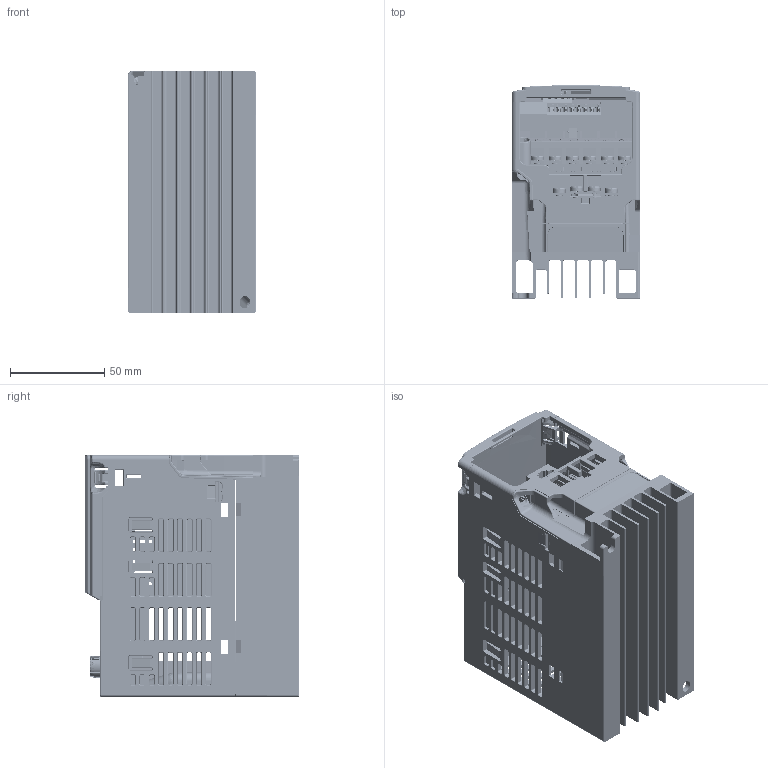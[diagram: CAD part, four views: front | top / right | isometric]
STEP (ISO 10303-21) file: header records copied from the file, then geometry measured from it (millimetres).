
FILE_DESCRIPTION((''),'2;1');
FILE_NAME('DELTA_IA_MDS_VFD-ME300-A4_D-3D_ASM','2023-12-28T19:05:13',('EDWARD.LIAO'),(''),'CREO PARAMETRIC BY PTC INC, 2022162','CREO PARAMETRIC BY PTC INC, 2022162','');
FILE_SCHEMA(('AUTOMOTIVE_DESIGN { 1 0 10303 214 1 1 1 1 }'));
Products named in the file (77): DELTA_IA_MDS_VFD-ME300-A4_D-3_1; DELTA_IA_MDS_VFD-ME300-A4_D-3_4; DELTA_IA_MDS_VFD-ME300-A4_D-3_6; DELTA_IA_MDS_VFD-ME300-A4_D-3_7; DELTA_IA_MDS_VFD-ME300-A4_D-3_9; DELTA_IA_MDS_VFD-ME300-A4_D-_10; DELTA_IA_MDS_VFD-ME300-A4_D-_12; DELTA_IA_MDS_VFD-ME300-A4_D-_13; DELTA_IA_MDS_VFD-ME300-A4_D-_15; DELTA_IA_MDS_VFD-ME300-A4_D-_16; DELTA_IA_MDS_VFD-ME300-A4_D-_18; DELTA_IA_MDS_VFD-ME300-A4_D-_19; DELTA_IA_MDS_VFD-ME300-A4_D-_21; DELTA_IA_MDS_VFD-ME300-A4_D-_22; DELTA_IA_MDS_VFD-ME300-A4_D-_24; DELTA_IA_MDS_VFD-ME300-A4_D-_25; DELTA_IA_MDS_VFD-ME300-A4_D-_27; DELTA_IA_MDS_VFD-ME300-A4_D-_28; DELTA_IA_MDS_VFD-ME300-A4_D-_30; DELTA_IA_MDS_VFD-ME300-A4_D-_31; DELTA_IA_MDS_VFD-ME300-A4_D-_33; DELTA_IA_MDS_VFD-ME300-A4_D-_34; DELTA_IA_MDS_VFD-ME300-A4_D-_36; DELTA_IA_MDS_VFD-ME300-A4_D-_37; DELTA_IA_MDS_VFD-ME300-A4_D-_38; DELTA_IA_MDS_VFD-ME300-A4_D-_39; DELTA_IA_MDS_VFD-ME300-A4_D-_40; DELTA_IA_MDS_VFD-ME300-A4_D-_41; DELTA_IA_MDS_VFD-ME300-A4_D-_42; DELTA_IA_MDS_VFD-ME300-A4_D-_43; DELTA_IA_MDS_VFD-ME300-A4_D-_44; DELTA_IA_MDS_VFD-ME300-A4_D-_45; DELTA_IA_MDS_VFD-ME300-A4_D-_46; DELTA_IA_MDS_VFD-ME300-A4_D-_47; DELTA_IA_MDS_VFD-ME300-A4_D-_48; DELTA_IA_MDS_VFD-ME300-A4_D-_49; DELTA_IA_MDS_VFD-ME300-A4_D-_50; DELTA_IA_MDS_VFD-ME300-A4_D-_61; ME-CTR_22_1_1_1_2_3; ME-CTR_23_1_1_1_2_3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
Assembly tree (76 placements, depth 6):
  DELTA_IA_MDS_VFD-ME300-A4_D-3D_ASM
    ASM0006_ASM_1_ASM_1_ASM
      DELTA_IA_MDS_VFD-ME300-A4_D-3_1
      DELTA_IA_MDS_VFD-ME300-A4_D-3_4
      DELTA_IA_MDS_VFD-ME300-A4_D-3_6
      DELTA_IA_MDS_VFD-ME300-A4_D-3_7
      DELTA_IA_MDS_VFD-ME300-A4_D-3_9
      DELTA_IA_MDS_VFD-ME300-A4_D-_10
      DELTA_IA_MDS_VFD-ME300-A4_D-_12
      DELTA_IA_MDS_VFD-ME300-A4_D-_13
      DELTA_IA_MDS_VFD-ME300-A4_D-_15
      DELTA_IA_MDS_VFD-ME300-A4_D-_16
      DELTA_IA_MDS_VFD-ME300-A4_D-_18
      DELTA_IA_MDS_VFD-ME300-A4_D-_19
      DELTA_IA_MDS_VFD-ME300-A4_D-_21
      DELTA_IA_MDS_VFD-ME300-A4_D-_22
      DELTA_IA_MDS_VFD-ME300-A4_D-_24
      DELTA_IA_MDS_VFD-ME300-A4_D-_25
      DELTA_IA_MDS_VFD-ME300-A4_D-_27
      DELTA_IA_MDS_VFD-ME300-A4_D-_28
      DELTA_IA_MDS_VFD-ME300-A4_D-_30
      DELTA_IA_MDS_VFD-ME300-A4_D-_31
      DELTA_IA_MDS_VFD-ME300-A4_D-_33
      DELTA_IA_MDS_VFD-ME300-A4_D-_34
      DELTA_IA_MDS_VFD-ME300-A4_D-_36
      DELTA_IA_MDS_VFD-ME300-A4_D-_37
      DELTA_IA_MDS_VFD-ME300-A4_D-_38
      DELTA_IA_MDS_VFD-ME300-A4_D-_39
      DELTA_IA_MDS_VFD-ME300-A4_D-_40
      DELTA_IA_MDS_VFD-ME300-A4_D-_41
      DELTA_IA_MDS_VFD-ME300-A4_D-_42
      DELTA_IA_MDS_VFD-ME300-A4_D-_43
      DELTA_IA_MDS_VFD-ME300-A4_D-_44
      DELTA_IA_MDS_VFD-ME300-A4_D-_45
      DELTA_IA_MDS_VFD-ME300-A4_D-_46
      DELTA_IA_MDS_VFD-ME300-A4_D-_47
      DELTA_IA_MDS_VFD-ME300-A4_D-_48
      DELTA_IA_MDS_VFD-ME300-A4_D-_49
      DELTA_IA_MDS_VFD-ME300-A4_D-_50
      DELTA_IA_MDS_VFD-ME300-A4_D-_61
      ME-CTR_ASM_1_1_2_ASM
        ASM0001_ASM_1_ASM_1_1_2_ASM
          ME-CTR_22_1_1_1_2_3
          ME-CTR_23_1_1_1_2_3
          ME-CTR_24_1_1_1_2_3
          ME-CTR_25_1_1_1_2_3
          ME-CTR_26_1_1_1_2_3
          ME-CTR_27_1_1_1_2_3
          ME-CTR_28_1_1_1_2_3
          ME-CTR_29_1_1_1_2_3
          ME-CTR_30_1_1_1_2_3
          ME-CTR_32_1_1_1_2_3
          ME-CTR_33_1_1_1_2_3
          ME-CTR_34_1_1_1_2_3
          ME-CTR_35_ASM_1_ASM_1_1_2_ASM
            ME-CTR_35_1_1_1_1_2_3
            ME-CTR_35_2_1_1_1_2_3
            ME-CTR_35_3_1_1_1_2_3
            ME-CTR_35_4_1_1_1_2_3
            ME-CTR_35_5_1_1_1_2_3
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Bounding box: 68 x 112.99 x 128 mm (x, y, z)
Volume: 189030.5 mm3; surface area: 203225.6 mm2
Topology: 72 solids, 146 shells, 10428 faces, 28009 edges, 17963 vertices
Faces by surface type: plane 6278, cylinder 2272, cone 922, torus 359, extrusion 326, bspline 183, revolution 48, sphere 40
Entity records: 441142 total; most frequent: CARTESIAN_POINT 85613, ORIENTED_EDGE 55862, DIRECTION 52548, EDGE_CURVE 27931, PRESENTATION_STYLE_ASSIGNMENT 21740, STYLED_ITEM 21392, VECTOR 19677, LINE 19351
